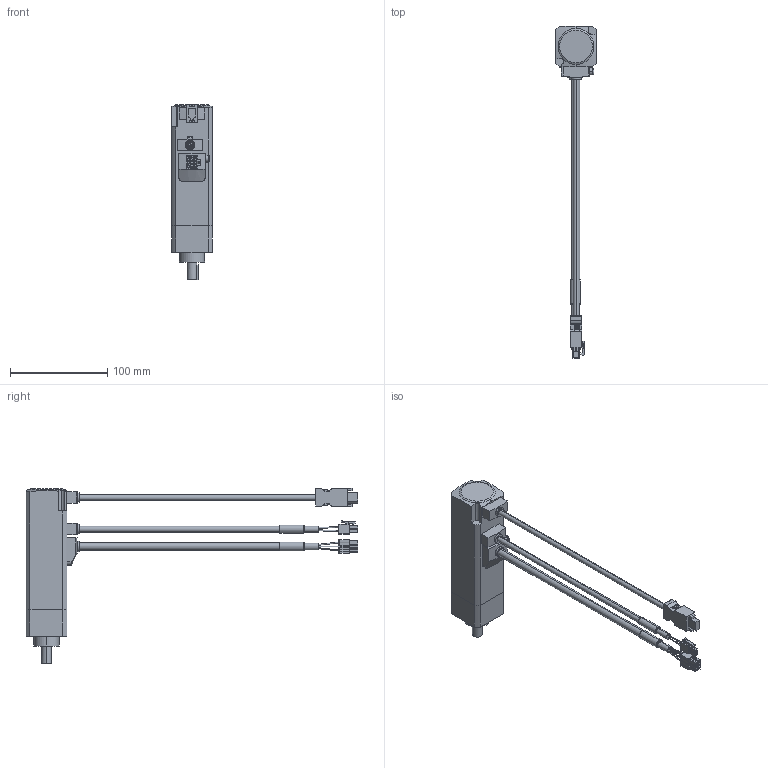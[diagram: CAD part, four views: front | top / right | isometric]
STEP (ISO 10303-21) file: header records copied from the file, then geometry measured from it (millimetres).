
FILE_DESCRIPTION (( 'STEP AP203' ), '1' );
FILE_NAME ('B1219.STEP', '2015-05-13T08:46:43', ( 'om' ), ( '' ), 'SwSTEP 2.0', 'SolidWorks 2014', '' );
FILE_SCHEMA (( 'CONFIG_CONTROL_DESIGN' ));
Length unit declared in the file: millimetre
Products named in the file (1): B1219
Bounding box: 42 x 342 x 180.4 mm (x, y, z)
Volume: 318016.2 mm3; surface area: 54937.3 mm2
Topology: 1 solids, 8 shells, 716 faces, 1863 edges, 1208 vertices
Faces by surface type: plane 556, cylinder 114, cone 18, bspline 15, torus 11, sphere 2
Entity records: 23294 total; most frequent: CARTESIAN_POINT 5597, ORIENTED_EDGE 3710, DIRECTION 3472, EDGE_CURVE 1855, VECTOR 1538, LINE 1538, VERTEX_POINT 1208, AXIS2_PLACEMENT_3D 967
